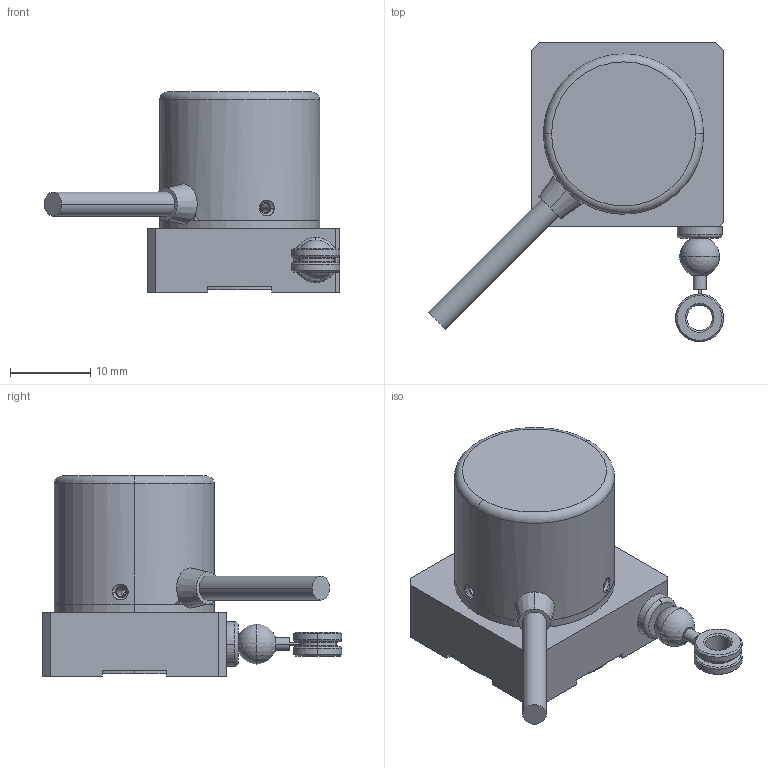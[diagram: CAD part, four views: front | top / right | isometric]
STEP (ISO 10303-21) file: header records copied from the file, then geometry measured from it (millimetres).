
FILE_DESCRIPTION(('STEP AP203'),'1');
FILE_NAME('C:/Users/MTL/Desktop/MLS-12.step','2017-05-09T08:50:27',(' '),(' '),'Spatial InterOp 3D',' ',' ');
FILE_SCHEMA(('CONFIG_CONTROL_DESIGN'));
Length unit declared in the file: millimetre
Products named in the file (10): 1; 2; 3; 4; 5; 6; 7; 8; 9; 10
Bounding box: 36.9 x 37.45 x 25 mm (x, y, z)
Volume: 4323.5 mm3; surface area: 6906.7 mm2
Topology: 10 solids, 10 shells, 256 faces, 608 edges, 366 vertices
Faces by surface type: cylinder 123, plane 66, cone 55, torus 10, sphere 2
Entity records: 8045 total; most frequent: CARTESIAN_POINT 1615, DIRECTION 1365, ORIENTED_EDGE 1168, EDGE_CURVE 584, AXIS2_PLACEMENT_3D 542, VERTEX_POINT 366, EDGE_LOOP 292, LINE 281
